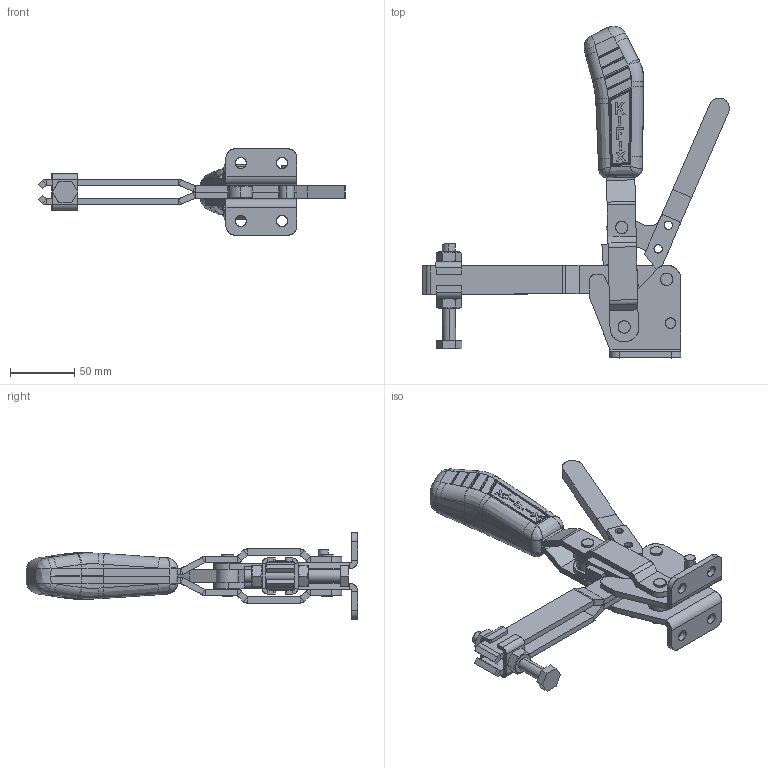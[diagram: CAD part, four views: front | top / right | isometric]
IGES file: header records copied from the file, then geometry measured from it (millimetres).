
Start section: SolidWorks IGES file using analytic representation for surfaces
Global section: file name: C:\Projetos\Grampos\KF-111\KF-111 DBL TR\KF-111 DBL TR.IGS; native system: SolidWorks 2013; preprocessor: SolidWorks 2013; author: Ricardo; date: 140728.155718; units: millimetre
Bounding box: 238.07 x 257.61 x 67 mm (x, y, z)
Surface area: 122001.9 mm2 (no closed solid volume)
Topology: 0 solids, 0 shells, 896 faces, 9660 edges, 9633 vertices
Faces by surface type: bspline 537, revolution 359
